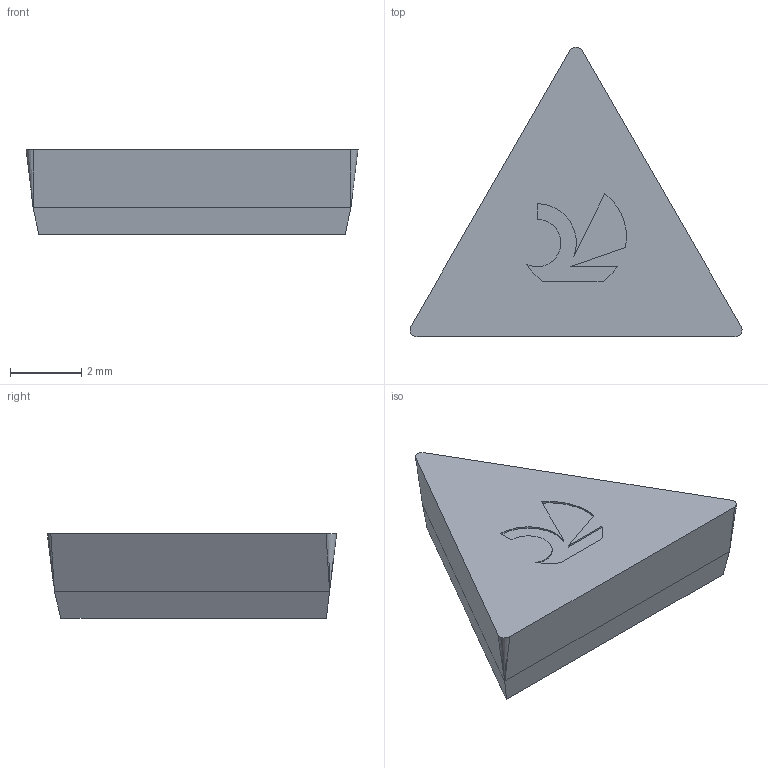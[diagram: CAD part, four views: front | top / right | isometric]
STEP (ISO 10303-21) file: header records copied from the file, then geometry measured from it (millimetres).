
FILE_DESCRIPTION(('no description'),'unknown implementation level');
FILE_NAME('solid2JJk4wLC_VfvEoLOLt_3srBGtp8_1.STP',' ',('CIMSOURCE GmbH'),('CADClick - KiM GmbH - www.kimweb.de'),'unknown preprocess','ACIS','unknown authorization');
FILE_SCHEMA(('automotive_design'));
Length unit declared in the file: millimetre
Products named in the file (1): CUT
Bounding box: 9.33 x 8.13 x 2.38 mm (x, y, z)
Volume: 85.6 mm3; surface area: 137.7 mm2
Topology: 1 solids, 1 shells, 23 faces, 57 edges, 34 vertices
Faces by surface type: plane 14, cylinder 6, cone 3
Entity records: 1313 total; most frequent: DIRECTION 121, CARTESIAN_POINT 114, STYLED_ITEM 112, PRESENTATION_STYLE_ASSIGNMENT 112, COLOUR_RGB 112, ORIENTED_EDGE 108, EDGE_CURVE 54, CURVE_STYLE 54
